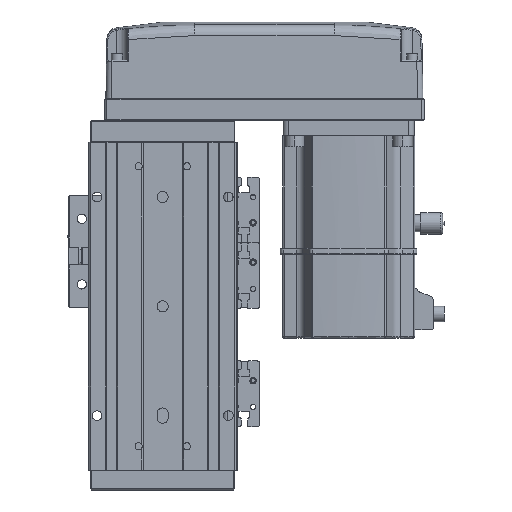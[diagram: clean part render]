
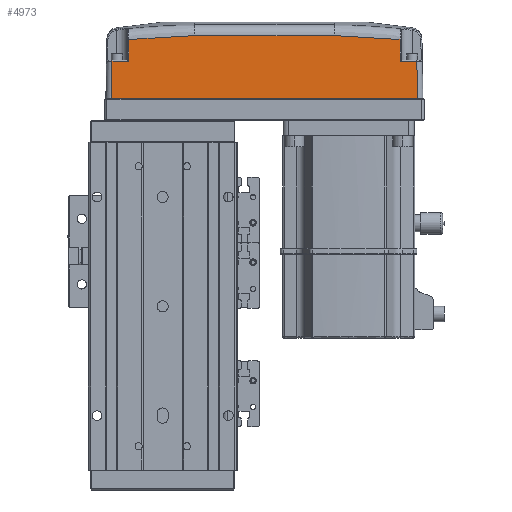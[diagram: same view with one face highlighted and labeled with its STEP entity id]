
A CAD part, front view. The second image highlights one B-rep face of the part: STEP entity #4973.
In plain terms, the highlighted planar face has unit normal (0, -1, 0.018).
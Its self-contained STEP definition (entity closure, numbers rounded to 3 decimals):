
#542 = CARTESIAN_POINT ( 'NONE',  ( -62., -29.529, 27.011 ) ) ;
#1166 = CARTESIAN_POINT ( 'NONE',  ( -44.519, -29.504, 28.4 ) ) ;
#1867 = CARTESIAN_POINT ( 'NONE',  ( 62., -29.529, 27.011 ) ) ;
#1883 = EDGE_LOOP ( 'NONE', ( #10530, #26251, #25334, #2987, #30810, #39631, #33095, #27388, #42565, #33706 ) ) ;
#2204 = EDGE_CURVE ( 'NONE', #37303, #27923, #2581, .T. ) ;
#2581 = LINE ( 'NONE', #15692, #27821 ) ;
#2987 = ORIENTED_EDGE ( 'NONE', *, *, #7381, .T. ) ;
#3345 = EDGE_CURVE ( 'NONE', #4506, #11690, #29486, .T. ) ;
#3389 = DIRECTION ( 'NONE',  ( -1., 0., 0. ) ) ;
#3915 = LINE ( 'NONE', #17037, #12742 ) ;
#4373 = CARTESIAN_POINT ( 'NONE',  ( -34.508, -29.498, 28.761 ) ) ;
#4506 = VERTEX_POINT ( 'NONE', #21507 ) ;
#4554 = DIRECTION ( 'NONE',  ( -1., 0., 0. ) ) ;
#4973 = ADVANCED_FACE ( 'NONE', ( #40677 ), #11159, .T. ) ;
#6819 = CARTESIAN_POINT ( 'NONE',  ( 69.957, -29.957, 2.486 ) ) ;
#7353 = VERTEX_POINT ( 'NONE', #33212 ) ;
#7381 = EDGE_CURVE ( 'NONE', #13131, #37110, #3915, .T. ) ;
#7667 = DIRECTION ( 'NONE',  ( 0., -0.017, -1. ) ) ;
#7919 = DIRECTION ( 'NONE',  ( 0., -0.017, -1. ) ) ;
#8514 = CARTESIAN_POINT ( 'NONE',  ( 32., -29.498, 28.761 ) ) ;
#10151 = CARTESIAN_POINT ( 'NONE',  ( 69.703, -29.703, 17.009 ) ) ;
#10322 = VECTOR ( 'NONE', #4554, 1000. ) ;
#10530 = ORIENTED_EDGE ( 'NONE', *, *, #26870, .T. ) ;
#11142 = VECTOR ( 'NONE', #13097, 1000. ) ;
#11159 = PLANE ( 'NONE',  #29113 ) ;
#11690 = VERTEX_POINT ( 'NONE', #10151 ) ;
#11762 = CARTESIAN_POINT ( 'NONE',  ( 42.018, -29.502, 28.532 ) ) ;
#11825 = EDGE_CURVE ( 'NONE', #7353, #13131, #20881, .T. ) ;
#12690 = CARTESIAN_POINT ( 'NONE',  ( -69.703, -29.703, 17.009 ) ) ;
#12742 = VECTOR ( 'NONE', #30206, 1000. ) ;
#13030 = DIRECTION ( 'NONE',  ( -1., 0., 0. ) ) ;
#13097 = DIRECTION ( 'NONE',  ( -0.017, 0.017, 1. ) ) ;
#13131 = VERTEX_POINT ( 'NONE', #12690 ) ;
#14149 = VECTOR ( 'NONE', #7667, 1000. ) ;
#14280 = CARTESIAN_POINT ( 'NONE',  ( -52.017, -29.513, 27.918 ) ) ;
#14327 = EDGE_CURVE ( 'NONE', #11690, #37303, #19717, .T. ) ;
#14985 = CARTESIAN_POINT ( 'NONE',  ( 57.011, -29.52, 27.485 ) ) ;
#15164 = LINE ( 'NONE', #28314, #42485 ) ;
#15583 = EDGE_CURVE ( 'NONE', #27923, #36059, #25791, .T. ) ;
#15692 = CARTESIAN_POINT ( 'NONE',  ( 62., -29.529, 26.963 ) ) ;
#15780 = EDGE_CURVE ( 'NONE', #36059, #34635, #29409, .T. ) ;
#15851 = VERTEX_POINT ( 'NONE', #542 ) ;
#16446 = CARTESIAN_POINT ( 'NONE',  ( 62., -29.529, 27.011 ) ) ;
#16621 = VECTOR ( 'NONE', #13030, 1000. ) ;
#17037 = CARTESIAN_POINT ( 'NONE',  ( -70.001, -30.001, -0.044 ) ) ;
#17142 = B_SPLINE_CURVE_WITH_KNOTS ( 'NONE', 3,
 ( #33900, #4373, #17489, #30666, #1166, #14280, #27429, #40575 ),
 .UNSPECIFIED., .F., .F.,
 ( 4, 2, 2, 4 ),
 ( 0., 0.008, 0.015, 0.03 ),
 .UNSPECIFIED. ) ;
#17489 = CARTESIAN_POINT ( 'NONE',  ( -37.013, -29.499, 28.712 ) ) ;
#18186 = CARTESIAN_POINT ( 'NONE',  ( 32., -29.498, 28.761 ) ) ;
#19717 = LINE ( 'NONE', #32906, #40648 ) ;
#20881 = LINE ( 'NONE', #34067, #10322 ) ;
#21507 = CARTESIAN_POINT ( 'NONE',  ( 70., -30., 0. ) ) ;
#22107 = CARTESIAN_POINT ( 'NONE',  ( -70., -30., 0. ) ) ;
#24023 = LINE ( 'NONE', #37193, #14149 ) ;
#24274 = CARTESIAN_POINT ( 'NONE',  ( -72.5, -30., 0. ) ) ;
#24887 = CARTESIAN_POINT ( 'NONE',  ( 37.013, -29.499, 28.712 ) ) ;
#25334 = ORIENTED_EDGE ( 'NONE', *, *, #11825, .T. ) ;
#25791 = B_SPLINE_CURVE_WITH_KNOTS ( 'NONE', 3,
 ( #1867, #14985, #28139, #41286, #11762, #24887, #38048, #8514 ),
 .UNSPECIFIED., .F., .F.,
 ( 4, 2, 2, 4 ),
 ( 0.008, 0.023, 0.03, 0.038 ),
 .UNSPECIFIED. ) ;
#26251 = ORIENTED_EDGE ( 'NONE', *, *, #34701, .T. ) ;
#26611 = CARTESIAN_POINT ( 'NONE',  ( -32., -29.498, 28.761 ) ) ;
#26870 = EDGE_CURVE ( 'NONE', #34635, #15851, #17142, .T. ) ;
#27388 = ORIENTED_EDGE ( 'NONE', *, *, #2204, .T. ) ;
#27429 = CARTESIAN_POINT ( 'NONE',  ( -57.011, -29.52, 27.485 ) ) ;
#27821 = VECTOR ( 'NONE', #28862, 1000. ) ;
#27923 = VERTEX_POINT ( 'NONE', #16446 ) ;
#28139 = CARTESIAN_POINT ( 'NONE',  ( 52.017, -29.513, 27.918 ) ) ;
#28314 = CARTESIAN_POINT ( 'NONE',  ( -72.5, -30., 0. ) ) ;
#28862 = DIRECTION ( 'NONE',  ( 0., 0.017, 1. ) ) ;
#29113 = AXIS2_PLACEMENT_3D ( 'NONE', #24274, #37434, #7919 ) ;
#29409 = LINE ( 'NONE', #42556, #16621 ) ;
#29486 = LINE ( 'NONE', #6819, #11142 ) ;
#30206 = DIRECTION ( 'NONE',  ( -0.017, -0.017, -1. ) ) ;
#30321 = CARTESIAN_POINT ( 'NONE',  ( 62., -29.703, 17.009 ) ) ;
#30666 = CARTESIAN_POINT ( 'NONE',  ( -42.018, -29.502, 28.532 ) ) ;
#30810 = ORIENTED_EDGE ( 'NONE', *, *, #33651, .T. ) ;
#32906 = CARTESIAN_POINT ( 'NONE',  ( 62.5, -29.703, 17.009 ) ) ;
#33095 = ORIENTED_EDGE ( 'NONE', *, *, #14327, .T. ) ;
#33212 = CARTESIAN_POINT ( 'NONE',  ( -62., -29.703, 17.009 ) ) ;
#33651 = EDGE_CURVE ( 'NONE', #37110, #4506, #15164, .T. ) ;
#33706 = ORIENTED_EDGE ( 'NONE', *, *, #15780, .T. ) ;
#33900 = CARTESIAN_POINT ( 'NONE',  ( -32., -29.498, 28.761 ) ) ;
#34067 = CARTESIAN_POINT ( 'NONE',  ( -69.695, -29.703, 17.009 ) ) ;
#34635 = VERTEX_POINT ( 'NONE', #26611 ) ;
#34701 = EDGE_CURVE ( 'NONE', #15851, #7353, #24023, .T. ) ;
#36059 = VERTEX_POINT ( 'NONE', #18186 ) ;
#37110 = VERTEX_POINT ( 'NONE', #22107 ) ;
#37193 = CARTESIAN_POINT ( 'NONE',  ( -62., -30., 0. ) ) ;
#37303 = VERTEX_POINT ( 'NONE', #30321 ) ;
#37434 = DIRECTION ( 'NONE',  ( 0., -1., 0.017 ) ) ;
#38048 = CARTESIAN_POINT ( 'NONE',  ( 34.508, -29.498, 28.761 ) ) ;
#39631 = ORIENTED_EDGE ( 'NONE', *, *, #3345, .T. ) ;
#40575 = CARTESIAN_POINT ( 'NONE',  ( -62., -29.529, 27.011 ) ) ;
#40648 = VECTOR ( 'NONE', #3389, 1000. ) ;
#40677 = FACE_OUTER_BOUND ( 'NONE', #1883, .T. ) ;
#41286 = CARTESIAN_POINT ( 'NONE',  ( 44.519, -29.504, 28.4 ) ) ;
#41449 = DIRECTION ( 'NONE',  ( 1., 0., 0. ) ) ;
#42485 = VECTOR ( 'NONE', #41449, 1000. ) ;
#42556 = CARTESIAN_POINT ( 'NONE',  ( -32., -29.498, 28.761 ) ) ;
#42565 = ORIENTED_EDGE ( 'NONE', *, *, #15583, .T. ) ;
